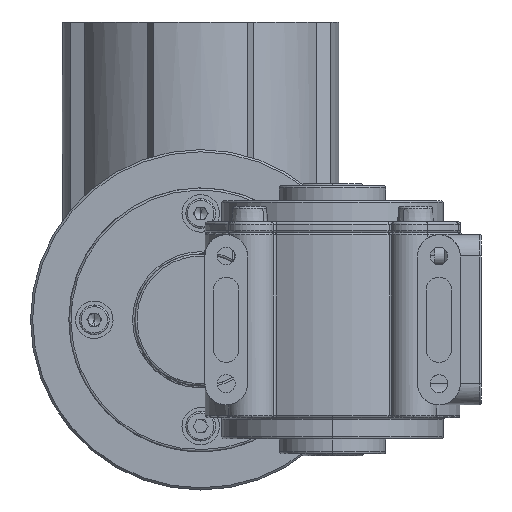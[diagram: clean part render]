
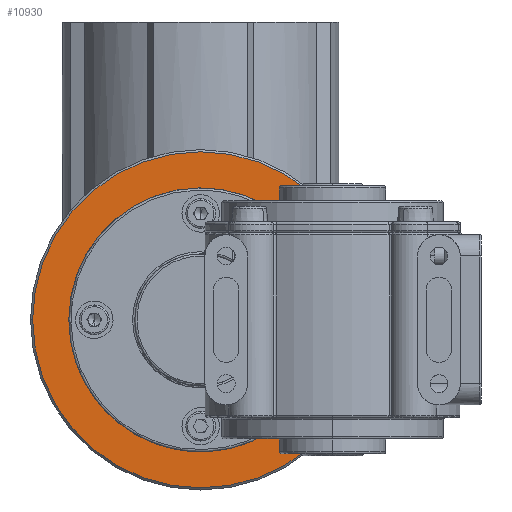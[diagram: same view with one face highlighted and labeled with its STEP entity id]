
A CAD part, left-side view. The second image highlights one B-rep face of the part: STEP entity #10930.
In plain terms, the highlighted planar face has unit normal (-1, 0, 0).
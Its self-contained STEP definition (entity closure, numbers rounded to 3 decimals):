
#265 = CARTESIAN_POINT ( 'NONE',  ( -61.394, 38.911, 25. ) ) ;
#317 = ORIENTED_EDGE ( 'NONE', *, *, #24739, .F. ) ;
#636 = EDGE_LOOP ( 'NONE', ( #24533, #20680 ) ) ;
#691 = CARTESIAN_POINT ( 'NONE',  ( -61.394, 40.936, 0. ) ) ;
#966 = AXIS2_PLACEMENT_3D ( 'NONE', #25670, #15062, #25821 ) ;
#1030 = AXIS2_PLACEMENT_3D ( 'NONE', #691, #17242, #2983 ) ;
#1105 = ORIENTED_EDGE ( 'NONE', *, *, #19789, .F. ) ;
#1188 = DIRECTION ( 'NONE',  ( -1., 0., 0. ) ) ;
#1360 = AXIS2_PLACEMENT_3D ( 'NONE', #25092, #7473, #11787 ) ;
#1586 = CARTESIAN_POINT ( 'NONE',  ( -61.394, 65.936, 0. ) ) ;
#1992 = EDGE_CURVE ( 'NONE', #23309, #3710, #10627, .T. ) ;
#2258 = ORIENTED_EDGE ( 'NONE', *, *, #26529, .F. ) ;
#2266 = DIRECTION ( 'NONE',  ( -1., 0., 0. ) ) ;
#2417 = CIRCLE ( 'NONE', #12035, 2.025 ) ;
#2568 = EDGE_CURVE ( 'NONE', #7288, #14845, #7787, .T. ) ;
#2672 = DIRECTION ( 'NONE',  ( -1., 0., 0. ) ) ;
#2751 = EDGE_LOOP ( 'NONE', ( #8655, #22788 ) ) ;
#2760 = DIRECTION ( 'NONE',  ( -1., 0., 0. ) ) ;
#2908 = CARTESIAN_POINT ( 'NONE',  ( -61.394, 17.961, 0. ) ) ;
#2983 = DIRECTION ( 'NONE',  ( 0., 1., 0. ) ) ;
#3633 = DIRECTION ( 'NONE',  ( 0., 1., 0. ) ) ;
#3636 = DIRECTION ( 'NONE',  ( 0., 1., 0. ) ) ;
#3710 = VERTEX_POINT ( 'NONE', #4821 ) ;
#4626 = CARTESIAN_POINT ( 'NONE',  ( -61.394, 40.936, 25. ) ) ;
#4821 = CARTESIAN_POINT ( 'NONE',  ( -61.394, 42.961, 25. ) ) ;
#4866 = AXIS2_PLACEMENT_3D ( 'NONE', #14840, #5666, #10116 ) ;
#5094 = FACE_BOUND ( 'NONE', #2751, .T. ) ;
#5237 = FACE_BOUND ( 'NONE', #15731, .T. ) ;
#5405 = CARTESIAN_POINT ( 'NONE',  ( -61.394, 40.936, 0. ) ) ;
#5653 = DIRECTION ( 'NONE',  ( -1., 0., 0. ) ) ;
#5666 = DIRECTION ( 'NONE',  ( -1., 0., 0. ) ) ;
#6397 = VERTEX_POINT ( 'NONE', #19535 ) ;
#6979 = EDGE_CURVE ( 'NONE', #3710, #23309, #14009, .T. ) ;
#7288 = VERTEX_POINT ( 'NONE', #14170 ) ;
#7372 = FACE_BOUND ( 'NONE', #14646, .T. ) ;
#7429 = EDGE_LOOP ( 'NONE', ( #11796, #317 ) ) ;
#7473 = DIRECTION ( 'NONE',  ( -1., 0., 0. ) ) ;
#7787 = CIRCLE ( 'NONE', #8716, 39.5 ) ;
#8155 = DIRECTION ( 'NONE',  ( 0., 1., 0. ) ) ;
#8373 = CIRCLE ( 'NONE', #1030, 16. ) ;
#8518 = CIRCLE ( 'NONE', #4866, 2.025 ) ;
#8655 = ORIENTED_EDGE ( 'NONE', *, *, #14627, .F. ) ;
#8716 = AXIS2_PLACEMENT_3D ( 'NONE', #11733, #27878, #25445 ) ;
#8949 = EDGE_LOOP ( 'NONE', ( #13772, #2258 ) ) ;
#10075 = EDGE_CURVE ( 'NONE', #6397, #26688, #25376, .T. ) ;
#10116 = DIRECTION ( 'NONE',  ( 0., 1., 0. ) ) ;
#10627 = CIRCLE ( 'NONE', #18416, 2.025 ) ;
#10930 = ADVANCED_FACE ( 'NONE', ( #15968, #5237, #7372, #5094, #16116, #13854 ), #22662, .T. ) ;
#11128 = AXIS2_PLACEMENT_3D ( 'NONE', #1586, #27972, #8155 ) ;
#11733 = CARTESIAN_POINT ( 'NONE',  ( -61.394, 40.936, 0. ) ) ;
#11787 = DIRECTION ( 'NONE',  ( 0., 1., 0. ) ) ;
#11796 = ORIENTED_EDGE ( 'NONE', *, *, #23125, .F. ) ;
#12035 = AXIS2_PLACEMENT_3D ( 'NONE', #16776, #12777, #23341 ) ;
#12444 = EDGE_CURVE ( 'NONE', #14845, #7288, #12686, .T. ) ;
#12686 = CIRCLE ( 'NONE', #14936, 39.5 ) ;
#12777 = DIRECTION ( 'NONE',  ( -1., 0., 0. ) ) ;
#12997 = AXIS2_PLACEMENT_3D ( 'NONE', #20755, #5653, #3633 ) ;
#13772 = ORIENTED_EDGE ( 'NONE', *, *, #16017, .F. ) ;
#13854 = FACE_BOUND ( 'NONE', #7429, .T. ) ;
#13953 = CARTESIAN_POINT ( 'NONE',  ( -61.394, 40.936, 0. ) ) ;
#14009 = CIRCLE ( 'NONE', #25116, 2.025 ) ;
#14170 = CARTESIAN_POINT ( 'NONE',  ( -61.394, 1.436, 0. ) ) ;
#14627 = EDGE_CURVE ( 'NONE', #26688, #6397, #2417, .T. ) ;
#14646 = EDGE_LOOP ( 'NONE', ( #17665, #27531 ) ) ;
#14707 = CIRCLE ( 'NONE', #17918, 16. ) ;
#14840 = CARTESIAN_POINT ( 'NONE',  ( -61.394, 40.936, -25. ) ) ;
#14845 = VERTEX_POINT ( 'NONE', #27643 ) ;
#14936 = AXIS2_PLACEMENT_3D ( 'NONE', #13953, #2760, #26737 ) ;
#14977 = VERTEX_POINT ( 'NONE', #15023 ) ;
#15023 = CARTESIAN_POINT ( 'NONE',  ( -61.394, 42.961, -25. ) ) ;
#15042 = CARTESIAN_POINT ( 'NONE',  ( -61.394, 65.936, 0. ) ) ;
#15062 = DIRECTION ( 'NONE',  ( -1., 0., 0. ) ) ;
#15394 = CIRCLE ( 'NONE', #20000, 2.025 ) ;
#15731 = EDGE_LOOP ( 'NONE', ( #1105, #21866 ) ) ;
#15791 = DIRECTION ( 'NONE',  ( 0., 1., 0. ) ) ;
#15968 = FACE_BOUND ( 'NONE', #8949, .T. ) ;
#16017 = EDGE_CURVE ( 'NONE', #14977, #20749, #23025, .T. ) ;
#16116 = FACE_OUTER_BOUND ( 'NONE', #636, .T. ) ;
#16458 = CARTESIAN_POINT ( 'NONE',  ( -61.394, 38.911, -25. ) ) ;
#16714 = VERTEX_POINT ( 'NONE', #25242 ) ;
#16776 = CARTESIAN_POINT ( 'NONE',  ( -61.394, 15.936, 0. ) ) ;
#17242 = DIRECTION ( 'NONE',  ( -1., 0., 0. ) ) ;
#17665 = ORIENTED_EDGE ( 'NONE', *, *, #6979, .F. ) ;
#17918 = AXIS2_PLACEMENT_3D ( 'NONE', #5405, #2672, #22547 ) ;
#18416 = AXIS2_PLACEMENT_3D ( 'NONE', #23092, #1188, #3636 ) ;
#18723 = VERTEX_POINT ( 'NONE', #27691 ) ;
#19535 = CARTESIAN_POINT ( 'NONE',  ( -61.394, 13.911, 0. ) ) ;
#19789 = EDGE_CURVE ( 'NONE', #18723, #23571, #15394, .T. ) ;
#19814 = DIRECTION ( 'NONE',  ( 0., 1., 0. ) ) ;
#20000 = AXIS2_PLACEMENT_3D ( 'NONE', #15042, #2266, #19814 ) ;
#20405 = VERTEX_POINT ( 'NONE', #22880 ) ;
#20485 = CARTESIAN_POINT ( 'NONE',  ( -61.394, 63.911, 0. ) ) ;
#20680 = ORIENTED_EDGE ( 'NONE', *, *, #12444, .T. ) ;
#20749 = VERTEX_POINT ( 'NONE', #16458 ) ;
#20755 = CARTESIAN_POINT ( 'NONE',  ( -61.394, 40.936, -40. ) ) ;
#21866 = ORIENTED_EDGE ( 'NONE', *, *, #24052, .F. ) ;
#22547 = DIRECTION ( 'NONE',  ( 0., 1., 0. ) ) ;
#22662 = PLANE ( 'NONE',  #12997 ) ;
#22788 = ORIENTED_EDGE ( 'NONE', *, *, #10075, .F. ) ;
#22880 = CARTESIAN_POINT ( 'NONE',  ( -61.394, 24.936, 0. ) ) ;
#23025 = CIRCLE ( 'NONE', #1360, 2.025 ) ;
#23092 = CARTESIAN_POINT ( 'NONE',  ( -61.394, 40.936, 25. ) ) ;
#23125 = EDGE_CURVE ( 'NONE', #16714, #20405, #14707, .T. ) ;
#23309 = VERTEX_POINT ( 'NONE', #265 ) ;
#23341 = DIRECTION ( 'NONE',  ( 0., 1., 0. ) ) ;
#23571 = VERTEX_POINT ( 'NONE', #20485 ) ;
#24052 = EDGE_CURVE ( 'NONE', #23571, #18723, #25929, .T. ) ;
#24533 = ORIENTED_EDGE ( 'NONE', *, *, #2568, .T. ) ;
#24739 = EDGE_CURVE ( 'NONE', #20405, #16714, #8373, .T. ) ;
#25092 = CARTESIAN_POINT ( 'NONE',  ( -61.394, 40.936, -25. ) ) ;
#25116 = AXIS2_PLACEMENT_3D ( 'NONE', #4626, #26432, #15791 ) ;
#25242 = CARTESIAN_POINT ( 'NONE',  ( -61.394, 56.936, 0. ) ) ;
#25376 = CIRCLE ( 'NONE', #966, 2.025 ) ;
#25445 = DIRECTION ( 'NONE',  ( 0., 1., 0. ) ) ;
#25670 = CARTESIAN_POINT ( 'NONE',  ( -61.394, 15.936, 0. ) ) ;
#25821 = DIRECTION ( 'NONE',  ( 0., 1., 0. ) ) ;
#25929 = CIRCLE ( 'NONE', #11128, 2.025 ) ;
#26432 = DIRECTION ( 'NONE',  ( -1., 0., 0. ) ) ;
#26529 = EDGE_CURVE ( 'NONE', #20749, #14977, #8518, .T. ) ;
#26688 = VERTEX_POINT ( 'NONE', #2908 ) ;
#26737 = DIRECTION ( 'NONE',  ( 0., 1., 0. ) ) ;
#27531 = ORIENTED_EDGE ( 'NONE', *, *, #1992, .F. ) ;
#27643 = CARTESIAN_POINT ( 'NONE',  ( -61.394, 80.436, 0. ) ) ;
#27691 = CARTESIAN_POINT ( 'NONE',  ( -61.394, 67.961, 0. ) ) ;
#27878 = DIRECTION ( 'NONE',  ( -1., 0., 0. ) ) ;
#27972 = DIRECTION ( 'NONE',  ( -1., 0., 0. ) ) ;
